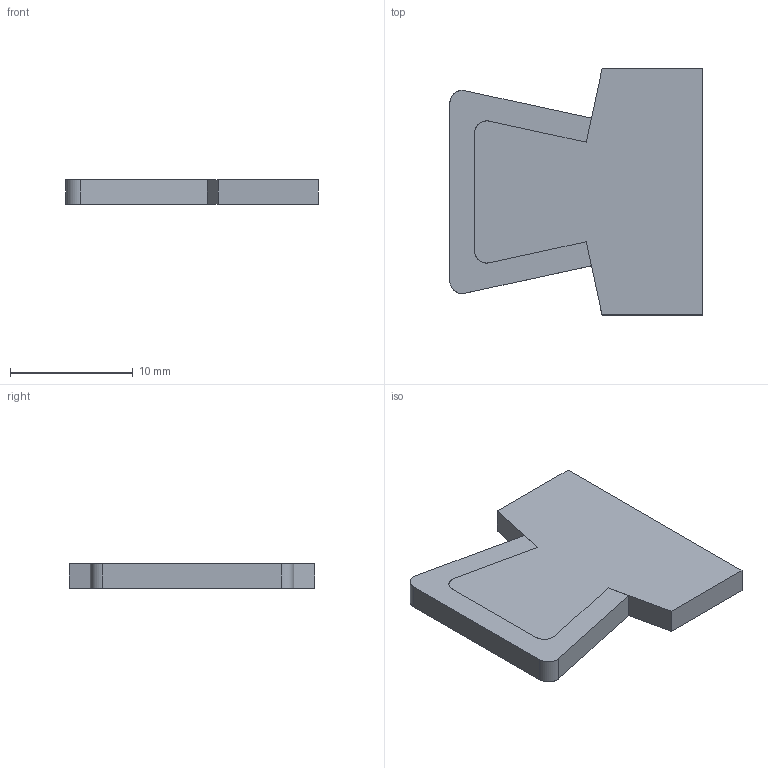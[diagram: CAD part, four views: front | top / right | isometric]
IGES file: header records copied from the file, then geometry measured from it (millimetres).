
Start section: SolidWorks IGES file using analytic representation for surfaces
Global section: file name: C:\Documents and Settings\URETIM3\Desktop\yeni katalog tolgay düzenli\E kataloðu\BS 200 PROFÝL ALPOLEN 1000\MONTAJ\206 KC4 101.MONTAJ.IGS; native system: SolidWorks 2006 by SolidWorks Corporation; preprocessor: SolidWorks 2006 by SolidWorks Corporation; author: URETIM3; date: 060913.093231; units: millimetre
Bounding box: 20.5 x 20 x 2 mm (x, y, z)
Surface area: 860.3 mm2 (no closed solid volume)
Topology: 0 solids, 0 shells, 14 faces, 168 edges, 168 vertices
Faces by surface type: bspline 12, revolution 2
